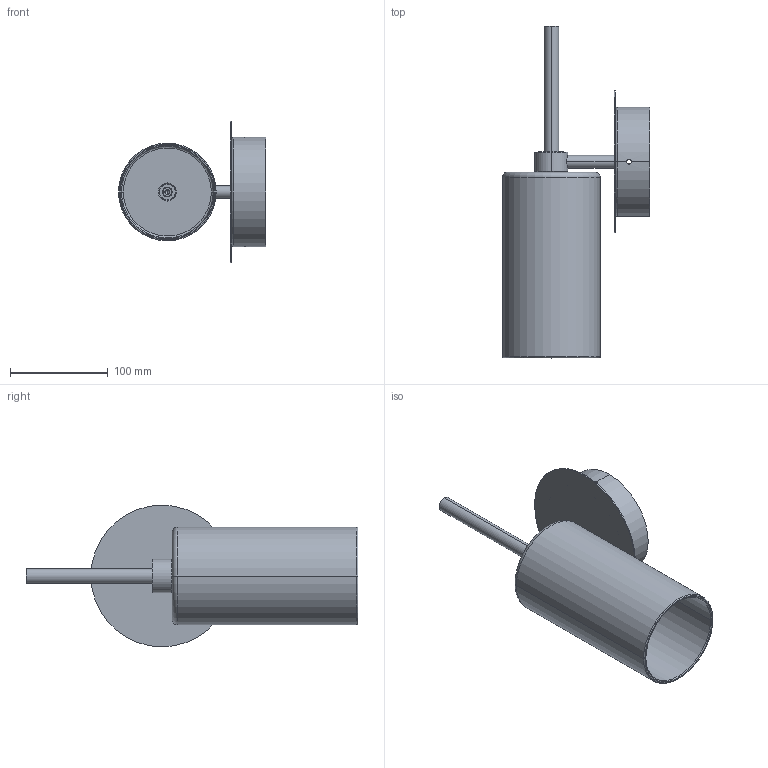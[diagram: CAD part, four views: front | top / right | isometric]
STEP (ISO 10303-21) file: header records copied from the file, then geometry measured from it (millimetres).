
FILE_DESCRIPTION (( 'STEP AP203' ), '1' );
FILE_NAME ('APSPIX01XXXXXXX-PER 3D.STEP', '2025-06-25T14:03:08', ( '' ), ( '' ), 'SwSTEP 2.0', 'SolidWorks 2024', '' );
FILE_SCHEMA (( 'CONFIG_CONTROL_DESIGN' ));
Length unit declared in the file: millimetre
Products named in the file (8): WSCM2C0178-0100-00; WSCM2F0036-0100-00; APSPIX01XXXXXXX-PER 3D; VSPILLRAYM190CS; WSCM2A0149-0700-01; WSCM2A0148-0700-00; WSCM2A0147-0700-01; MAPSPIX01XXXXXXX
Assembly tree (7 placements, depth 3):
  APSPIX01XXXXXXX-PER 3D
    MAPSPIX01XXXXXXX
      WSCM2A0147-0700-01
      WSCM2A0149-0700-01
      WSCM2A0148-0700-00
      WSCM2C0178-0100-00
      WSCM2F0036-0100-00
    VSPILLRAYM190CS
Bounding box: 150.5 x 339.8 x 145 mm (x, y, z)
Volume: 271239.6 mm3; surface area: 220889.1 mm2
Topology: 6 solids, 6 shells, 118 faces, 262 edges, 156 vertices
Faces by surface type: cylinder 49, cone 29, plane 22, torus 16, bspline 2
Entity records: 6404 total; most frequent: CARTESIAN_POINT 2896, DIRECTION 615, ORIENTED_EDGE 520, AXIS2_PLACEMENT_3D 262, EDGE_CURVE 260, VERTEX_POINT 156, EDGE_LOOP 138, CIRCLE 135
